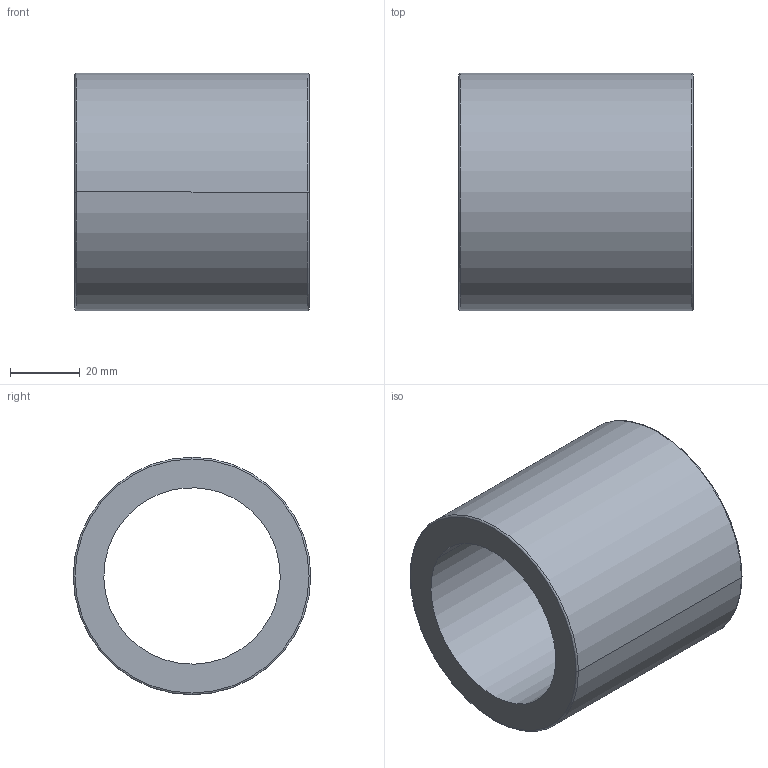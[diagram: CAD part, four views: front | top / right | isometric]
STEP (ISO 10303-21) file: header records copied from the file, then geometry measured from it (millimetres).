
FILE_DESCRIPTION(('CATIA V5 STEP Exchange'),'2;1');
FILE_NAME('C:\Users\aa\Documents\이댈\TM\STM\STM50.stp','2020-03-24T09:43:26+00:00',('none'),('none'),'CATIA Version 5 Release 20 SP 7 (IN-10)','CATIA V5 STEP AP203','none');
FILE_SCHEMA(('CONFIG_CONTROL_DESIGN'));
Length unit declared in the file: millimetre
Products named in the file (1): STM50
Bounding box: 67 x 68 x 68 mm (x, y, z)
Volume: 109101.5 mm3; surface area: 28108.2 mm2
Topology: 1 solids, 1 shells, 10 faces, 20 edges, 12 vertices
Faces by surface type: cylinder 4, torus 4, plane 2
Entity records: 322 total; most frequent: CARTESIAN_POINT 71, ORIENTED_EDGE 40, DIRECTION 38, AXIS2_PLACEMENT_3D 25, EDGE_CURVE 20, CIRCLE 14, EDGE_LOOP 12, VERTEX_POINT 12
